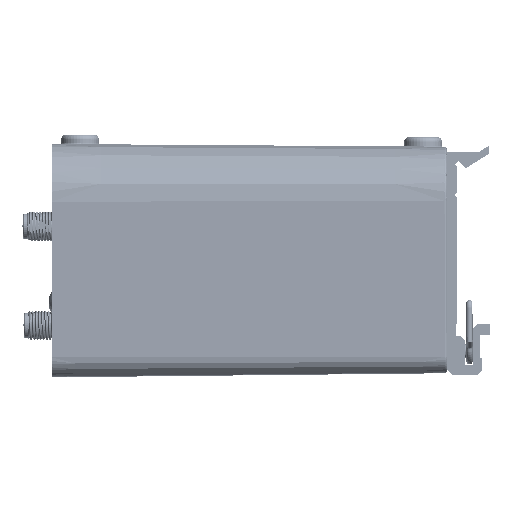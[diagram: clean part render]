
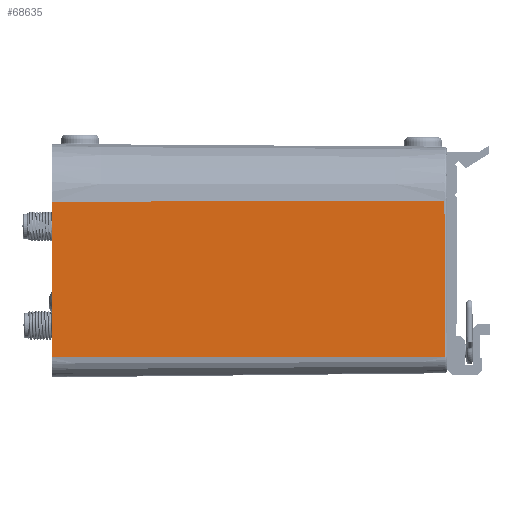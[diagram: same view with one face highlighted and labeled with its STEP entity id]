
A CAD part, front view. The second image highlights one B-rep face of the part: STEP entity #68635.
In plain terms, the highlighted planar face has unit normal (0.009, -1, 0) as drawn and (1, 0, -0.009) by its records, which use the part's own axes.
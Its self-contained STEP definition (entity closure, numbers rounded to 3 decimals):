
#22325 = CARTESIAN_POINT ( 'NONE',  ( 116.23, 3.5, 83.7 ) ) ;
#28732 = VERTEX_POINT ( 'NONE', #320433 ) ;
#40754 = DIRECTION ( 'NONE',  ( -0.009, 0., -1. ) ) ;
#41998 = VECTOR ( 'NONE', #153341, 1000. ) ;
#42730 = FACE_OUTER_BOUND ( 'NONE', #358142, .T. ) ;
#68635 = ADVANCED_FACE ( 'NONE', ( #42730 ), #263340, .T. ) ;
#89804 = LINE ( 'NONE', #310262, #344612 ) ;
#131080 = ORIENTED_EDGE ( 'NONE', *, *, #184189, .F. ) ;
#137857 = ORIENTED_EDGE ( 'NONE', *, *, #178755, .F. ) ;
#153062 = DIRECTION ( 'NONE',  ( 0., 1., 0. ) ) ;
#153341 = DIRECTION ( 'NONE',  ( -0.009, 0., -1. ) ) ;
#162884 = VERTEX_POINT ( 'NONE', #22325 ) ;
#163340 = VERTEX_POINT ( 'NONE', #202713 ) ;
#178755 = EDGE_CURVE ( 'NONE', #163340, #262391, #335159, .T. ) ;
#184189 = EDGE_CURVE ( 'NONE', #162884, #163340, #89804, .T. ) ;
#193946 = CARTESIAN_POINT ( 'NONE',  ( 115.5, 1.1, 0. ) ) ;
#202713 = CARTESIAN_POINT ( 'NONE',  ( 116.23, 36.5, 83.7 ) ) ;
#259751 = DIRECTION ( 'NONE',  ( 0., 1., 0. ) ) ;
#262391 = VERTEX_POINT ( 'NONE', #326629 ) ;
#263340 = PLANE ( 'NONE',  #308974 ) ;
#289928 = DIRECTION ( 'NONE',  ( 1., 0., -0.009 ) ) ;
#302561 = CARTESIAN_POINT ( 'NONE',  ( 115.504, 3.5, 0.496 ) ) ;
#304598 = VECTOR ( 'NONE', #259751, 1000. ) ;
#305834 = ORIENTED_EDGE ( 'NONE', *, *, #365414, .F. ) ;
#308974 = AXIS2_PLACEMENT_3D ( 'NONE', #193946, #289928, #40754 ) ;
#310262 = CARTESIAN_POINT ( 'NONE',  ( 116.23, 24., 83.7 ) ) ;
#320433 = CARTESIAN_POINT ( 'NONE',  ( 115.504, 3.5, 0.496 ) ) ;
#324986 = CARTESIAN_POINT ( 'NONE',  ( 115.504, 1.1, 0.496 ) ) ;
#326629 = CARTESIAN_POINT ( 'NONE',  ( 115.504, 36.5, 0.496 ) ) ;
#335159 = LINE ( 'NONE', #367809, #41998 ) ;
#344612 = VECTOR ( 'NONE', #153062, 1000. ) ;
#358142 = EDGE_LOOP ( 'NONE', ( #305834, #361480, #137857, #131080 ) ) ;
#359658 = LINE ( 'NONE', #324986, #304598 ) ;
#361480 = ORIENTED_EDGE ( 'NONE', *, *, #380121, .T. ) ;
#361826 = CARTESIAN_POINT ( 'NONE',  ( 116.23, 3.5, 83.7 ) ) ;
#365414 = EDGE_CURVE ( 'NONE', #28732, #162884, #382093, .T. ) ;
#367809 = CARTESIAN_POINT ( 'NONE',  ( 115.867, 36.5, 42.098 ) ) ;
#380121 = EDGE_CURVE ( 'NONE', #28732, #262391, #359658, .T. ) ;
#382093 = B_SPLINE_CURVE_WITH_KNOTS ( 'NONE', 1,
 ( #302561, #361826 ),
 .UNSPECIFIED., .F., .F.,
 ( 2, 2 ),
 ( 0., 1. ),
 .UNSPECIFIED. ) ;
